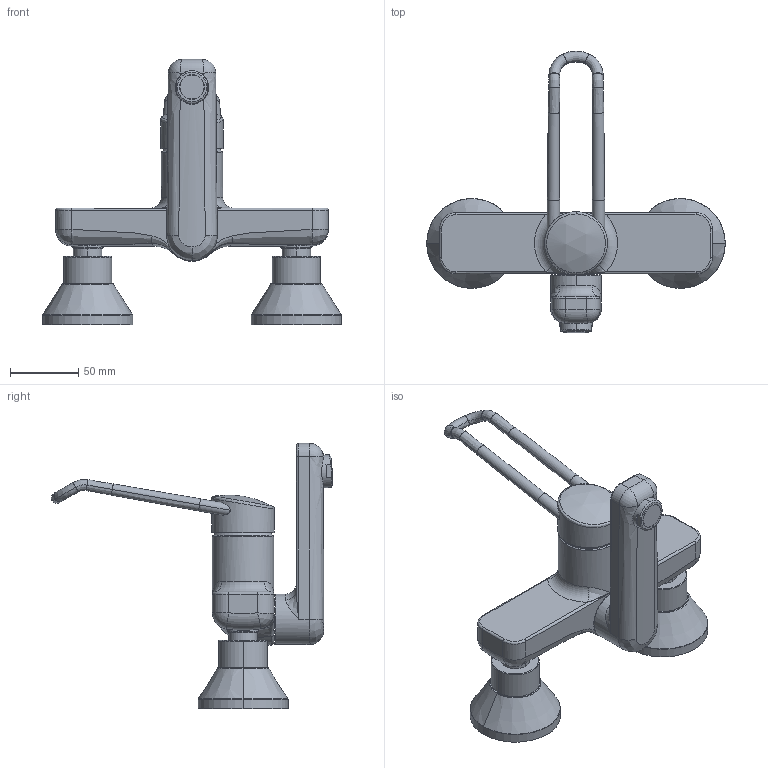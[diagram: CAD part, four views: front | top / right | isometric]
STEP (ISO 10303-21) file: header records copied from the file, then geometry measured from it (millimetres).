
FILE_DESCRIPTION((''),'2;1');
FILE_NAME('11522202','2020-07-29T18:00:48',('SN986'),(''),'CREO PARAMETRIC BY PTC INC, 2018500','CREO PARAMETRIC BY PTC INC, 2018500','');
FILE_SCHEMA(('CONFIG_CONTROL_DESIGN'));
Length unit declared in the file: millimetre
Products named in the file (1): 11522202
Bounding box: 219 x 206.47 x 194.5 mm (x, y, z)
Volume: 675266.4 mm3; surface area: 88084.4 mm2
Topology: 2 solids, 2 shells, 190 faces, 411 edges, 235 vertices
Faces by surface type: cylinder 55, bspline 52, torus 38, plane 28, cone 10, sphere 7
Entity records: 11079 total; most frequent: CARTESIAN_POINT 7245, ORIENTED_EDGE 822, DIRECTION 738, EDGE_CURVE 411, AXIS2_PLACEMENT_3D 325, VERTEX_POINT 235, EDGE_LOOP 202, FACE_OUTER_BOUND 190
